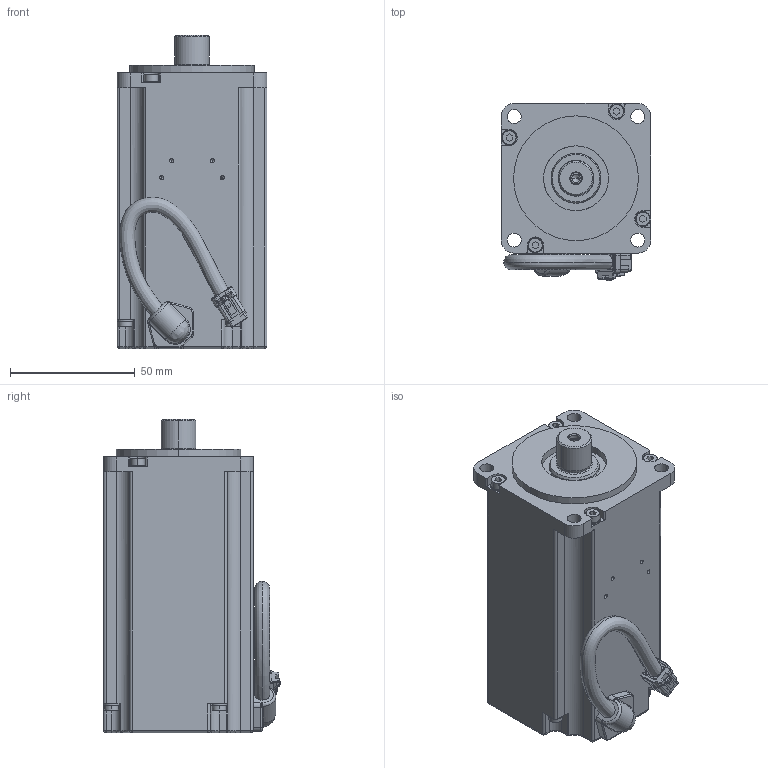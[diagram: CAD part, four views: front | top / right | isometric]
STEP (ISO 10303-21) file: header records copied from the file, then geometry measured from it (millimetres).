
FILE_DESCRIPTION (( 'STEP AP214' ), '1' );
FILE_NAME ('SGM7J-02APK-YR1.STEP', '2021-04-12T14:37:58', ( '' ), ( '' ), 'SwSTEP 2.0', 'SolidWorks 2019', '' );
FILE_SCHEMA (( 'AUTOMOTIVE_DESIGN' ));
Length unit declared in the file: millimetre
Products named in the file (1): SGM7J-02APK-YR1
Bounding box: 60 x 70.83 x 125.5 mm (x, y, z)
Volume: 363330.3 mm3; surface area: 37423.8 mm2
Topology: 1 solids, 2 shells, 609 faces, 1578 edges, 994 vertices
Faces by surface type: plane 343, cylinder 189, bspline 55, cone 22
Entity records: 25162 total; most frequent: CARTESIAN_POINT 10561, ORIENTED_EDGE 3116, DIRECTION 2644, EDGE_CURVE 1558, VERTEX_POINT 994, LINE 990, VECTOR 990, AXIS2_PLACEMENT_3D 827
